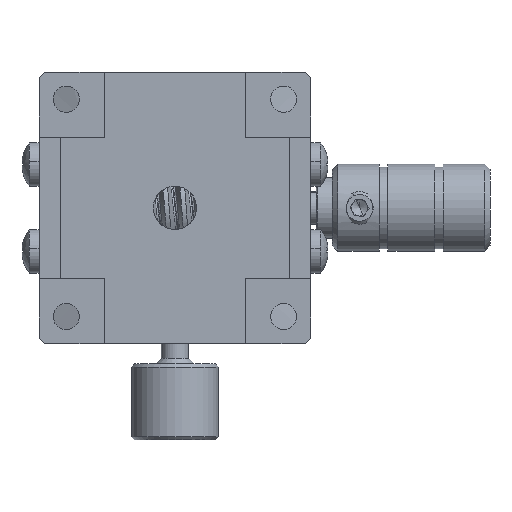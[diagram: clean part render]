
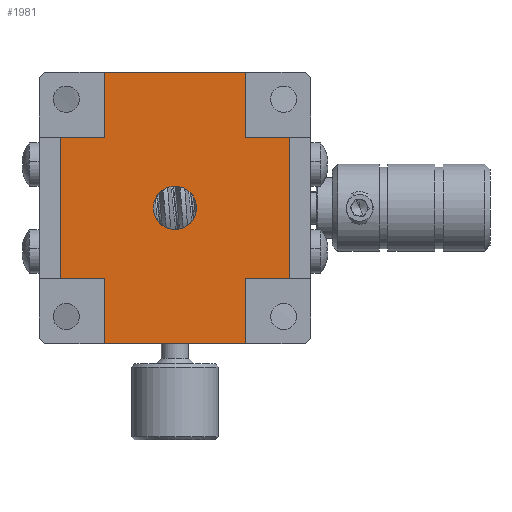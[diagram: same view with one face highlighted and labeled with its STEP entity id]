
A CAD part, front view. The second image highlights one B-rep face of the part: STEP entity #1981.
In plain terms, the highlighted planar face has unit normal (0, -1, 0).
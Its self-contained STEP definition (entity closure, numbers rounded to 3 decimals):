
#244 = CARTESIAN_POINT ( 'NONE',  ( 12.522, 60.174, 27.597 ) ) ;
#640 = DIRECTION ( 'NONE',  ( 0., 0., 1. ) ) ;
#789 = EDGE_CURVE ( 'NONE', #12742, #1269, #13430, .T. ) ;
#1142 = VERTEX_POINT ( 'NONE', #20016 ) ;
#1260 = VECTOR ( 'NONE', #10096, 1000. ) ;
#1269 = VERTEX_POINT ( 'NONE', #7380 ) ;
#1841 = EDGE_CURVE ( 'NONE', #14926, #3610, #28166, .T. ) ;
#1981 = ADVANCED_FACE ( 'NONE', ( #19469, #7470 ), #26911, .T. ) ;
#1984 = CARTESIAN_POINT ( 'NONE',  ( 25.022, 60.174, 34.097 ) ) ;
#2250 = VERTEX_POINT ( 'NONE', #9947 ) ;
#2305 = VECTOR ( 'NONE', #25588, 1000. ) ;
#2398 = DIRECTION ( 'NONE',  ( 0., -1., 0. ) ) ;
#2476 = DIRECTION ( 'NONE',  ( -1., 0., 0. ) ) ;
#2885 = DIRECTION ( 'NONE',  ( 1., 0., 0. ) ) ;
#3365 = AXIS2_PLACEMENT_3D ( 'NONE', #10262, #26690, #24788 ) ;
#3610 = VERTEX_POINT ( 'NONE', #5889 ) ;
#4332 = LINE ( 'NONE', #11294, #31002 ) ;
#4481 = VECTOR ( 'NONE', #30650, 1000. ) ;
#4698 = ORIENTED_EDGE ( 'NONE', *, *, #7910, .F. ) ;
#4834 = CARTESIAN_POINT ( 'NONE',  ( 12.522, 60.174, 40.597 ) ) ;
#4898 = ORIENTED_EDGE ( 'NONE', *, *, #7308, .F. ) ;
#5137 = EDGE_CURVE ( 'NONE', #17915, #1269, #15648, .T. ) ;
#5188 = LINE ( 'NONE', #19567, #1260 ) ;
#5424 = EDGE_CURVE ( 'NONE', #28395, #2250, #22037, .T. ) ;
#5670 = VERTEX_POINT ( 'NONE', #4834 ) ;
#5889 = CARTESIAN_POINT ( 'NONE',  ( 29.522, 60.174, 40.597 ) ) ;
#6310 = DIRECTION ( 'NONE',  ( 1., 0., 0. ) ) ;
#6621 = LINE ( 'NONE', #18326, #12245 ) ;
#6665 = ORIENTED_EDGE ( 'NONE', *, *, #16589, .T. ) ;
#7296 = EDGE_CURVE ( 'NONE', #17779, #30076, #20200, .T. ) ;
#7308 = EDGE_CURVE ( 'NONE', #10638, #30537, #14690, .T. ) ;
#7380 = CARTESIAN_POINT ( 'NONE',  ( 16.522, 60.174, 46.597 ) ) ;
#7390 = CARTESIAN_POINT ( 'NONE',  ( 23.022, 60.174, 40.597 ) ) ;
#7470 = FACE_OUTER_BOUND ( 'NONE', #26577, .T. ) ;
#7628 = CARTESIAN_POINT ( 'NONE',  ( 23.022, 60.174, 34.097 ) ) ;
#7910 = EDGE_CURVE ( 'NONE', #2250, #28395, #12148, .T. ) ;
#8136 = VECTOR ( 'NONE', #16283, 1000. ) ;
#8321 = EDGE_CURVE ( 'NONE', #14926, #1142, #13908, .T. ) ;
#9033 = CARTESIAN_POINT ( 'NONE',  ( 16.522, 60.174, 21.597 ) ) ;
#9507 = ORIENTED_EDGE ( 'NONE', *, *, #20416, .F. ) ;
#9934 = VERTEX_POINT ( 'NONE', #9033 ) ;
#9947 = CARTESIAN_POINT ( 'NONE',  ( 21.022, 60.174, 34.097 ) ) ;
#9955 = DIRECTION ( 'NONE',  ( -1., 0., 0. ) ) ;
#10096 = DIRECTION ( 'NONE',  ( 0., 0., 1. ) ) ;
#10262 = CARTESIAN_POINT ( 'NONE',  ( 23.022, 60.174, 34.097 ) ) ;
#10638 = VERTEX_POINT ( 'NONE', #16086 ) ;
#10976 = ORIENTED_EDGE ( 'NONE', *, *, #5137, .T. ) ;
#11294 = CARTESIAN_POINT ( 'NONE',  ( 29.522, 60.174, 34.097 ) ) ;
#11620 = VECTOR ( 'NONE', #28639, 1000. ) ;
#11886 = LINE ( 'NONE', #25650, #11620 ) ;
#11999 = CARTESIAN_POINT ( 'NONE',  ( 33.522, 60.174, 29.597 ) ) ;
#12148 = CIRCLE ( 'NONE', #26268, 2. ) ;
#12245 = VECTOR ( 'NONE', #6310, 1000. ) ;
#12742 = VERTEX_POINT ( 'NONE', #31153 ) ;
#12942 = DIRECTION ( 'NONE',  ( 0., 0., 1. ) ) ;
#13130 = VECTOR ( 'NONE', #9955, 1000. ) ;
#13382 = CARTESIAN_POINT ( 'NONE',  ( 29.522, 60.174, 27.597 ) ) ;
#13430 = LINE ( 'NONE', #21007, #4481 ) ;
#13908 = LINE ( 'NONE', #11999, #8136 ) ;
#14440 = EDGE_CURVE ( 'NONE', #9934, #17779, #6621, .T. ) ;
#14690 = LINE ( 'NONE', #24329, #13130 ) ;
#14926 = VERTEX_POINT ( 'NONE', #23887 ) ;
#15116 = ORIENTED_EDGE ( 'NONE', *, *, #19265, .F. ) ;
#15162 = CARTESIAN_POINT ( 'NONE',  ( 29.522, 60.174, 34.097 ) ) ;
#15648 = LINE ( 'NONE', #18174, #2305 ) ;
#16086 = CARTESIAN_POINT ( 'NONE',  ( 16.522, 60.174, 27.597 ) ) ;
#16283 = DIRECTION ( 'NONE',  ( 0., 0., -1. ) ) ;
#16317 = CARTESIAN_POINT ( 'NONE',  ( 23.022, 60.174, 40.597 ) ) ;
#16589 = EDGE_CURVE ( 'NONE', #12742, #5670, #29506, .T. ) ;
#16767 = ORIENTED_EDGE ( 'NONE', *, *, #1841, .T. ) ;
#16796 = ORIENTED_EDGE ( 'NONE', *, *, #28617, .F. ) ;
#17779 = VERTEX_POINT ( 'NONE', #23361 ) ;
#17915 = VERTEX_POINT ( 'NONE', #29667 ) ;
#18174 = CARTESIAN_POINT ( 'NONE',  ( 52.522, 60.174, 46.597 ) ) ;
#18326 = CARTESIAN_POINT ( 'NONE',  ( 60.522, 60.174, 21.597 ) ) ;
#18860 = ORIENTED_EDGE ( 'NONE', *, *, #7296, .T. ) ;
#19265 = EDGE_CURVE ( 'NONE', #30537, #5670, #19603, .T. ) ;
#19469 = FACE_BOUND ( 'NONE', #26046, .T. ) ;
#19567 = CARTESIAN_POINT ( 'NONE',  ( 16.522, 60.174, 34.097 ) ) ;
#19603 = LINE ( 'NONE', #27192, #22918 ) ;
#20016 = CARTESIAN_POINT ( 'NONE',  ( 33.522, 60.174, 27.597 ) ) ;
#20200 = LINE ( 'NONE', #15162, #28250 ) ;
#20416 = EDGE_CURVE ( 'NONE', #9934, #10638, #5188, .T. ) ;
#20649 = ORIENTED_EDGE ( 'NONE', *, *, #5424, .F. ) ;
#21007 = CARTESIAN_POINT ( 'NONE',  ( 16.522, 60.174, 34.097 ) ) ;
#21515 = DIRECTION ( 'NONE',  ( 1., 0., 0. ) ) ;
#22037 = CIRCLE ( 'NONE', #3365, 2. ) ;
#22631 = EDGE_CURVE ( 'NONE', #3610, #17915, #4332, .T. ) ;
#22918 = VECTOR ( 'NONE', #640, 1000. ) ;
#23361 = CARTESIAN_POINT ( 'NONE',  ( 29.522, 60.174, 21.597 ) ) ;
#23578 = CARTESIAN_POINT ( 'NONE',  ( 23.022, 60.174, 34.097 ) ) ;
#23887 = CARTESIAN_POINT ( 'NONE',  ( 33.522, 60.174, 40.597 ) ) ;
#24329 = CARTESIAN_POINT ( 'NONE',  ( 23.022, 60.174, 27.597 ) ) ;
#24439 = ORIENTED_EDGE ( 'NONE', *, *, #22631, .T. ) ;
#24539 = DIRECTION ( 'NONE',  ( 0., -1., 0. ) ) ;
#24788 = DIRECTION ( 'NONE',  ( 1., 0., 0. ) ) ;
#25427 = ORIENTED_EDGE ( 'NONE', *, *, #789, .F. ) ;
#25588 = DIRECTION ( 'NONE',  ( -1., 0., 0. ) ) ;
#25650 = CARTESIAN_POINT ( 'NONE',  ( 23.022, 60.174, 27.597 ) ) ;
#25762 = VECTOR ( 'NONE', #25953, 1000. ) ;
#25785 = AXIS2_PLACEMENT_3D ( 'NONE', #7628, #24539, #2885 ) ;
#25953 = DIRECTION ( 'NONE',  ( -1., 0., 0. ) ) ;
#26046 = EDGE_LOOP ( 'NONE', ( #20649, #4698 ) ) ;
#26268 = AXIS2_PLACEMENT_3D ( 'NONE', #23578, #2398, #21515 ) ;
#26577 = EDGE_LOOP ( 'NONE', ( #10976, #25427, #6665, #15116, #4898, #9507, #28874, #18860, #16796, #26927, #16767, #24439 ) ) ;
#26690 = DIRECTION ( 'NONE',  ( 0., -1., 0. ) ) ;
#26911 = PLANE ( 'NONE',  #25785 ) ;
#26927 = ORIENTED_EDGE ( 'NONE', *, *, #8321, .F. ) ;
#27192 = CARTESIAN_POINT ( 'NONE',  ( 12.522, 60.174, 34.097 ) ) ;
#28166 = LINE ( 'NONE', #16317, #25762 ) ;
#28250 = VECTOR ( 'NONE', #12942, 1000. ) ;
#28353 = DIRECTION ( 'NONE',  ( 0., 0., 1. ) ) ;
#28395 = VERTEX_POINT ( 'NONE', #1984 ) ;
#28617 = EDGE_CURVE ( 'NONE', #1142, #30076, #11886, .T. ) ;
#28639 = DIRECTION ( 'NONE',  ( -1., 0., 0. ) ) ;
#28868 = VECTOR ( 'NONE', #2476, 1000. ) ;
#28874 = ORIENTED_EDGE ( 'NONE', *, *, #14440, .T. ) ;
#29506 = LINE ( 'NONE', #7390, #28868 ) ;
#29667 = CARTESIAN_POINT ( 'NONE',  ( 29.522, 60.174, 46.597 ) ) ;
#30076 = VERTEX_POINT ( 'NONE', #13382 ) ;
#30537 = VERTEX_POINT ( 'NONE', #244 ) ;
#30650 = DIRECTION ( 'NONE',  ( 0., 0., 1. ) ) ;
#31002 = VECTOR ( 'NONE', #28353, 1000. ) ;
#31153 = CARTESIAN_POINT ( 'NONE',  ( 16.522, 60.174, 40.597 ) ) ;
